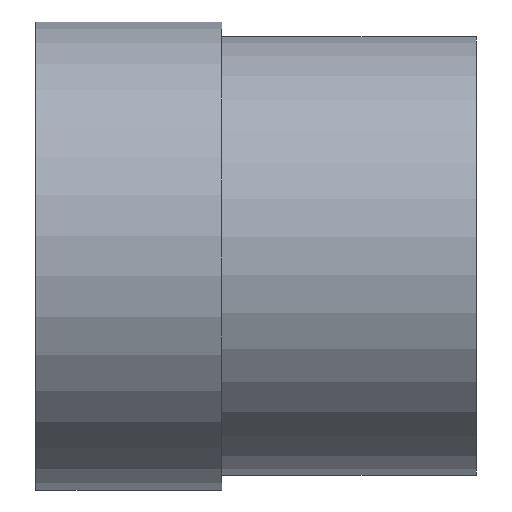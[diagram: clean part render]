
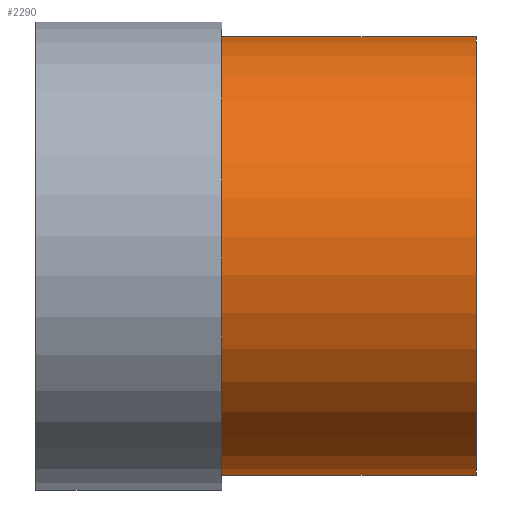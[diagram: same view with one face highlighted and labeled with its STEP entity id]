
A CAD part, front view. The second image highlights one B-rep face of the part: STEP entity #2290.
In plain terms, the highlighted cylindrical face has radius 11.25 mm (diameter 22.5 mm), a full revolution.
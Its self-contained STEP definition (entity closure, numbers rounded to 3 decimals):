
#100=CARTESIAN_POINT('',(29.939,47.162,22.5));
#110=VERTEX_POINT('',#100);
#290=CARTESIAN_POINT('',(29.932,47.169,22.5));
#300=VERTEX_POINT('',#290);
#330=CARTESIAN_POINT('',(37.89,55.12,22.5));
#340=DIRECTION('',(0.,0.,1.));
#350=DIRECTION('',(1.,0.,0.));
#360=AXIS2_PLACEMENT_3D('',#330,#340,#350);
#370=CIRCLE('',#360,11.25);
#380=EDGE_CURVE('',#110,#300,#370,.T.);
#490=CARTESIAN_POINT('',(29.939,47.162,0.));
#500=DIRECTION('',(0.,0.,1.));
#510=VECTOR('',#500,1.);
#520=LINE('',#490,#510);
#530=CARTESIAN_POINT('',(29.939,47.162,9.5));
#540=VERTEX_POINT('',#530);
#550=EDGE_CURVE('',#540,#110,#520,.T.);
#1390=CARTESIAN_POINT('',(29.932,47.169,9.5));
#1400=VERTEX_POINT('',#1390);
#1450=CARTESIAN_POINT('',(29.932,47.169,0.));
#1460=DIRECTION('',(0.,0.,1.));
#1470=VECTOR('',#1460,1.);
#1480=LINE('',#1450,#1470);
#1490=EDGE_CURVE('',#1400,#300,#1480,.T.);
#2120=CARTESIAN_POINT('',(37.89,55.12,0.));
#2130=DIRECTION('',(0.,0.,1.));
#2140=DIRECTION('',(1.,0.,0.));
#2150=AXIS2_PLACEMENT_3D('',#2120,#2130,#2140);
#2160=CYLINDRICAL_SURFACE('',#2150,11.25);
#2170=ORIENTED_EDGE('',*,*,#1490,.T.);
#2180=CARTESIAN_POINT('',(37.89,55.12,9.5));
#2190=DIRECTION('',(0.,0.,1.));
#2200=DIRECTION('',(1.,0.,0.));
#2210=AXIS2_PLACEMENT_3D('',#2180,#2190,#2200);
#2220=CIRCLE('',#2210,11.25);
#2230=EDGE_CURVE('',#540,#1400,#2220,.T.);
#2240=ORIENTED_EDGE('',*,*,#2230,.T.);
#2250=ORIENTED_EDGE('',*,*,#550,.F.);
#2260=ORIENTED_EDGE('',*,*,#380,.F.);
#2270=EDGE_LOOP('',(#2260,#2250,#2240,#2170));
#2280=FACE_OUTER_BOUND('',#2270,.T.);
#2290=ADVANCED_FACE('',(#2280),#2160,.T.);
